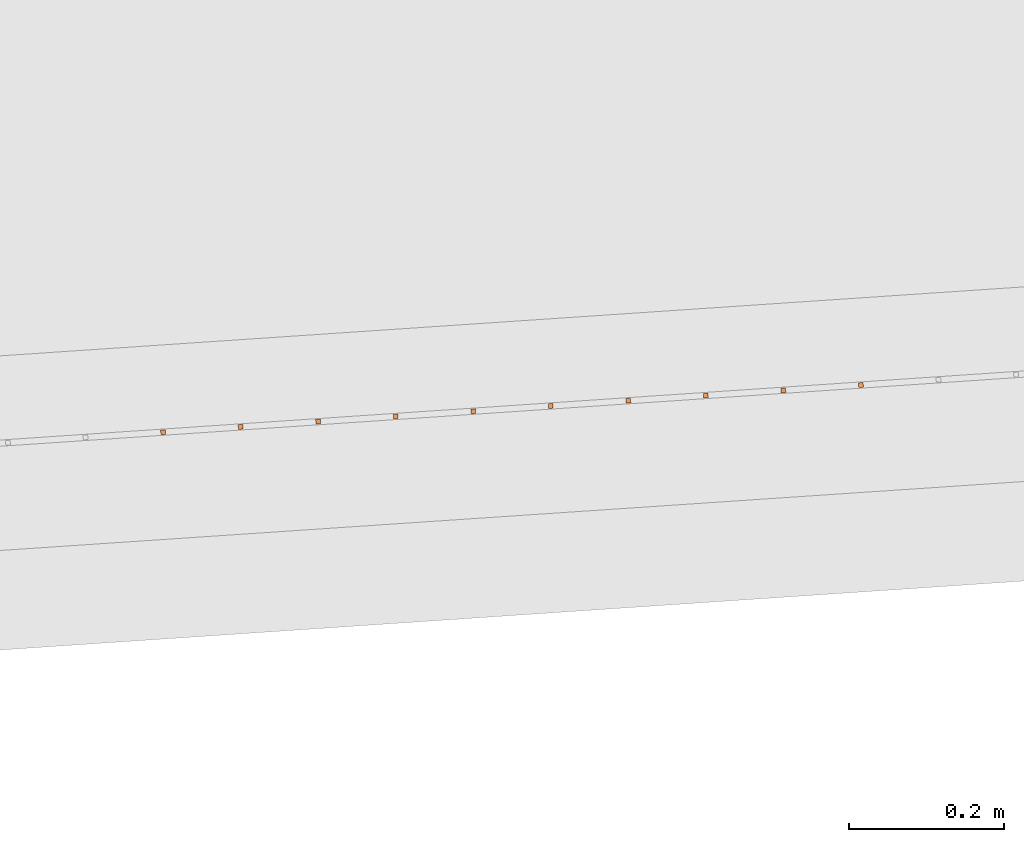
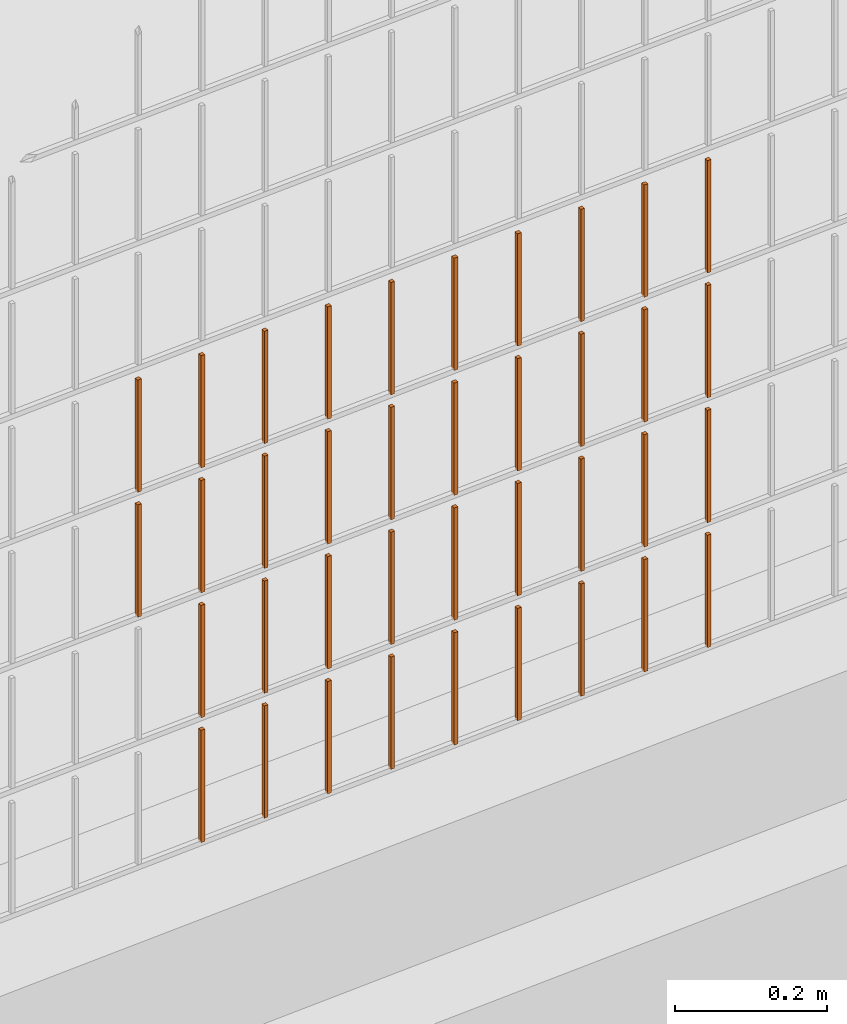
# One storey, part 175 of 1809: 38 proxies, 1 element without a shape of its own.
"""IFC2X3 building model written with IfcOpenShell, lengths in millimetres."""

import ifcopenshell
import ifcopenshell.guid

model = None  # the IFC model being written
_history = None  # IfcOwnerHistory: only IFC2X3 demands one
_inside = {}  # id of a spatial element -> (the spatial element, [elements in it])
_under = {}  # id of a project, library or spatial element -> (it, [spatial elements below it])
_declared = {}  # id of a project -> (the project, [libraries it declares])
_typed = {}  # id of a type object -> (the type object, [elements of that type])
_made_of = {}  # id of a material, layer set ... -> (it, [elements and type objects made of it])


def new_model(schema):
    """Start an empty IFC model of exactly this schema.

    Asked for "IFC4X3", IfcOpenShell would pick the latest addendum, in which some entities
    have other attributes; the version numbers below select the first issue.
    IFC2X3 requires an IfcOwnerHistory on every rooted entity: one is made here for all.
    """
    global model, _history
    if schema == "IFC4X3":
        model = ifcopenshell.file(schema_version=(4, 3, 0, 0))
    else:
        model = ifcopenshell.file(schema=schema)
    _inside.clear()
    _under.clear()
    _declared.clear()
    _typed.clear()
    _made_of.clear()
    _history = None
    if model.schema == "IFC2X3":
        org = make("IfcOrganization", Name="unknown")
        user = make(
            "IfcPersonAndOrganization",
            ThePerson=make("IfcPerson", FamilyName="unknown"),
            TheOrganization=org,
        )
        app = make(
            "IfcApplication",
            ApplicationDeveloper=org,
            Version="unknown",
            ApplicationFullName="unknown",
            ApplicationIdentifier="unknown",
        )
        _history = make(
            "IfcOwnerHistory",
            OwningUser=user,
            OwningApplication=app,
            ChangeAction="ADDED",
            CreationDate=0,
        )
    return model


def make(cls, **values):
    """One entity of the class cls with the attributes given. An attribute that is None is left unset."""
    return model.create_entity(
        cls, **{name: value for name, value in values.items() if value is not None}
    )


def entity(cls, *values):
    """Any entity or typed value of the class cls, its attributes in the order of the schema. None: left unset."""
    e = model.create_entity(cls)
    for i, value in enumerate(values):
        if value is not None:
            e[i] = value
    return e


def rooted(cls, **values):
    """An entity with a GlobalId (a new one), such as an element, a storey or a relation."""
    return make(cls, GlobalId=ifcopenshell.guid.new(), OwnerHistory=_history, **values)


def si_unit(unit_type, name, prefix=None):
    """IfcSIUnit, for example si_unit("LENGTHUNIT", "METRE", prefix="MILLI")."""
    return make("IfcSIUnit", UnitType=unit_type, Prefix=prefix, Name=name)


def converted_unit(unit_type, name, factor, base, dimensions=None, offset=None):
    """IfcConversionBasedUnit, such as the inch: factor (a typed value) times the base unit."""
    return make(
        "IfcConversionBasedUnit"
        if offset is None
        else "IfcConversionBasedUnitWithOffset",
        ConversionOffset=offset,
        Dimensions=None
        if dimensions is None
        else entity("IfcDimensionalExponents", *dimensions),
        UnitType=unit_type,
        Name=name,
        ConversionFactor=make(
            "IfcMeasureWithUnit", ValueComponent=factor, UnitComponent=base
        ),
    )


def derived_unit(unit_type, elements):
    """IfcDerivedUnit: a product of units, each with its exponent."""
    return make(
        "IfcDerivedUnit",
        Elements=[
            make("IfcDerivedUnitElement", Unit=unit, Exponent=power)
            for unit, power in elements
        ],
        UnitType=unit_type,
    )


def money_unit(currency):
    """IfcMonetaryUnit."""
    return make("IfcMonetaryUnit", Currency=currency)


def assignment(units):
    """IfcUnitAssignment: the units of a project."""
    return None if units is None else make("IfcUnitAssignment", Units=units)


def point(xyz):
    """IfcCartesianPoint."""
    return None if xyz is None else make("IfcCartesianPoint", Coordinates=xyz)


def direction(xyz):
    """IfcDirection."""
    return None if xyz is None else make("IfcDirection", DirectionRatios=xyz)


def frame(location, z_axis=None, x_axis=None):
    """IfcAxis2Placement3D, a coordinate frame: its origin and axes. An axis left out is left unset."""
    return make(
        "IfcAxis2Placement3D",
        Location=point(location),
        Axis=direction(z_axis),
        RefDirection=direction(x_axis),
    )


def origin_with_axes():
    """The frame at (0, 0, 0) with the z axis (0, 0, 1) and the x axis (1, 0, 0) written out."""
    return frame((0.0, 0.0, 0.0), z_axis=(0.0, 0.0, 1.0), x_axis=(1.0, 0.0, 0.0))


def place(relative_to, where):
    """IfcLocalPlacement: puts the frame where relative to a parent placement (None: the world)."""
    return make(
        "IfcLocalPlacement", PlacementRelTo=relative_to, RelativePlacement=where
    )


def context(
    kind, dimensions, precision=None, world=None, true_north=None, identifier=None
):
    """IfcGeometricRepresentationContext, for example the 3D "Model" context."""
    return make(
        "IfcGeometricRepresentationContext",
        ContextIdentifier=identifier,
        ContextType=kind,
        CoordinateSpaceDimension=dimensions,
        Precision=precision,
        WorldCoordinateSystem=world,
        TrueNorth=true_north,
    )


def subcontext(parent, identifier, kind, view, scale=None):
    """IfcGeometricRepresentationSubContext, for example "Body" below "Model"."""
    return make(
        "IfcGeometricRepresentationSubContext",
        ContextIdentifier=identifier,
        ContextType=kind,
        ParentContext=parent,
        TargetScale=scale,
        TargetView=view,
    )


def project(units=None, contexts=None):
    """IfcProject with its units and contexts."""
    return rooted(
        "IfcProject",
        Name="project",
        RepresentationContexts=contexts,
        UnitsInContext=assignment(units),
    )


def spatial(cls, under=None, at=None, **own):
    """A site, building, storey or space (cls), placed at a placement, below another one or the project."""
    s = rooted(cls, ObjectPlacement=at, **own)
    if under is not None:
        _under.setdefault(under.id(), (under, []))[1].append(s)
    return s


def faces_of(points, faces, orient=None, outer=None):
    """IfcFace entities. A face is a list of loops; a loop is a list of indices into points, from 0.

    orient and outer hold one flag for each loop. By default every Orientation is true, the
    first loop of a face is its IfcFaceOuterBound and the others are IfcFaceBound.
    """
    made = []
    for i, loops in enumerate(faces):
        bounds = []
        for j, loop in enumerate(loops):
            is_outer = j == 0 if outer is None else outer[i][j]
            bounds.append(
                make(
                    "IfcFaceOuterBound" if is_outer else "IfcFaceBound",
                    Bound=make("IfcPolyLoop", Polygon=[points[k] for k in loop]),
                    Orientation=True if orient is None else orient[i][j],
                )
            )
        made.append(make("IfcFace", Bounds=bounds))
    return made


def faceted_brep(points, faces, orient=None, outer=None, voids=None):
    """IfcFacetedBrep: a solid bounded by flat faces; with voids (closed shells), ...WithVoids."""
    shared = [point(p) for p in points]
    hull = make("IfcClosedShell", CfsFaces=faces_of(shared, faces, orient, outer))
    if voids is None:
        return make("IfcFacetedBrep", Outer=hull)
    return make(
        "IfcFacetedBrepWithVoids",
        Outer=hull,
        Voids=[
            make(cls, CfsFaces=faces_of(shared, fs, o, b)) for cls, fs, o, b in voids
        ],
    )


def shape(context_of_items, identifier, shape_type, items):
    """IfcShapeRepresentation: the items that make up one representation, for example the "Body"."""
    return make(
        "IfcShapeRepresentation",
        ContextOfItems=context_of_items,
        RepresentationIdentifier=identifier,
        RepresentationType=shape_type,
        Items=items,
    )


def source(mapping_origin, context_of_items, identifier, shape_type, items):
    """IfcRepresentationMap: a shape defined once, which mapped items show again and again."""
    return make(
        "IfcRepresentationMap",
        MappingOrigin=mapping_origin,
        MappedRepresentation=shape(context_of_items, identifier, shape_type, items),
    )


def transform(
    local_origin,
    x_axis=None,
    y_axis=None,
    z_axis=None,
    scale=None,
    scale2=None,
    scale3=None,
    uniform=True,
):
    """IfcCartesianTransformationOperator3D, or its non-uniform kind. x_axis, y_axis, z_axis: its Axis1, 2, 3."""
    if uniform:
        return make(
            "IfcCartesianTransformationOperator3D",
            Axis1=direction(x_axis),
            Axis2=direction(y_axis),
            LocalOrigin=point(local_origin),
            Scale=scale,
            Axis3=direction(z_axis),
        )
    return make(
        "IfcCartesianTransformationOperator3DnonUniform",
        Axis1=direction(x_axis),
        Axis2=direction(y_axis),
        LocalOrigin=point(local_origin),
        Scale=scale,
        Axis3=direction(z_axis),
        Scale2=scale2,
        Scale3=scale3,
    )


def mapped(mapping_source, mapping_target):
    """IfcMappedItem: shows the shape of a source again, moved by a transform."""
    return make(
        "IfcMappedItem", MappingSource=mapping_source, MappingTarget=mapping_target
    )


def material(Name=None, Category=None):
    """IfcMaterial."""
    return make("IfcMaterial", Name=Name, Category=Category)


def made_of(thing, what):
    """Note that an element or type object is made of a material, layer set ...; save() writes the relation."""
    if what is not None:
        _made_of.setdefault(what.id(), (what, []))[1].append(thing)
    return thing


def type_object(cls, material=None, **own):
    """A type object (cls), such as IfcWallType, which elements share."""
    return made_of(rooted(cls, **own), material)


def element(
    cls,
    number,
    at=None,
    inside=None,
    cuts=None,
    type_object=None,
    material=None,
    context=None,
    identifier="Body",
    shape_type=None,
    held_by="IfcProductDefinitionShape",
    body=None,
    shapes=None,
    **own,
):
    """One element of the class cls, such as IfcWall. Its Tag is "e" and its number.

    at: its placement. inside: the storey or other place that contains it. cuts: it is an
    opening in that element (IfcRelVoidsElement). A single representation is given by context,
    identifier, shape_type and body (its items); several are given by shapes. held_by: the class
    of the entity that holds the representations. save() writes the other relations.
    """
    e = rooted(cls, Tag="e%d" % number, ObjectPlacement=at, **own)
    if body is not None:
        shapes = [shape(context, identifier, shape_type, body)]
    if shapes is not None:
        e.Representation = make(held_by, Representations=shapes)
    if inside is not None:
        _inside.setdefault(inside.id(), (inside, []))[1].append(e)
    if cuts is not None:
        rooted(
            "IfcRelVoidsElement", RelatingBuildingElement=cuts, RelatedOpeningElement=e
        )
    if type_object is not None:
        _typed.setdefault(type_object.id(), (type_object, []))[1].append(e)
    return made_of(e, material)


def aggregate(whole, parts):
    """IfcRelAggregates: a whole, such as a stair, and the parts it consists of."""
    return rooted("IfcRelAggregates", RelatingObject=whole, RelatedObjects=parts)


def save(model, path):
    """Write the relations noted so far, then the file.

    IfcRelAggregates (storeys below a building ...), IfcRelContainedInSpatialStructure (elements
    in a storey), IfcRelDefinesByType, IfcRelAssociatesMaterial and IfcRelDeclares: one each for
    every whole, place, type object, material and project.
    """
    for whole, parts in _under.values():
        aggregate(whole, parts)
    for where, things in _inside.values():
        rooted(
            "IfcRelContainedInSpatialStructure",
            RelatedElements=things,
            RelatingStructure=where,
        )
    for kind, things in _typed.values():
        rooted("IfcRelDefinesByType", RelatedObjects=things, RelatingType=kind)
    for what, things in _made_of.values():
        rooted("IfcRelAssociatesMaterial", RelatedObjects=things, RelatingMaterial=what)
    for by, libraries in _declared.values():
        rooted("IfcRelDeclares", RelatingContext=by, RelatedDefinitions=libraries)
    model.write(path)


model = new_model("IFC2X3")

# Units and contexts
model_context = context("Model", 3, precision=0.01, world=origin_with_axes(), true_north=direction((0.0, 1.0)))
body_context = subcontext(model_context, "Body", "Model", "MODEL_VIEW")
ifc_project = project(units=[si_unit("LENGTHUNIT", "METRE", prefix="MILLI"), si_unit("AREAUNIT", "SQUARE_METRE"), si_unit("VOLUMEUNIT", "CUBIC_METRE"), converted_unit("PLANEANGLEUNIT", "DEGREE", entity("IfcPlaneAngleMeasure", 0.0174532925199), si_unit("PLANEANGLEUNIT", "RADIAN"), dimensions=[0, 0, 0, 0, 0, 0, 0]), si_unit("SOLIDANGLEUNIT", "STERADIAN"), money_unit("EUR"), converted_unit("TIMEUNIT", "Year", entity("IfcTimeMeasure", 31556926.0), si_unit("TIMEUNIT", "SECOND"), dimensions=[0, 0, 1, 0, 0, 0, 0]), si_unit("MASSUNIT", "GRAM", prefix="KILO"), si_unit("THERMODYNAMICTEMPERATUREUNIT", "DEGREE_CELSIUS"), si_unit("LUMINOUSINTENSITYUNIT", "LUMEN"), si_unit("ENERGYUNIT", "JOULE", prefix="MEGA"), derived_unit("THERMALCONDUCTANCEUNIT", [(si_unit("POWERUNIT", "WATT"), 1), (si_unit("LENGTHUNIT", "METRE"), -1), (si_unit("THERMODYNAMICTEMPERATUREUNIT", "KELVIN"), -1)]), derived_unit("SPECIFICHEATCAPACITYUNIT", [(si_unit("ENERGYUNIT", "JOULE"), 1), (si_unit("MASSUNIT", "GRAM", prefix="KILO"), -1), (si_unit("THERMODYNAMICTEMPERATUREUNIT", "KELVIN"), -1)]), derived_unit("MASSDENSITYUNIT", [(si_unit("MASSUNIT", "GRAM", prefix="KILO"), 1), (si_unit("VOLUMEUNIT", "CUBIC_METRE"), -1)])], contexts=[model_context])

# Site, building, storey
site_placement = place(None, origin_with_axes())
site = spatial("IfcSite", under=ifc_project, at=site_placement, Name="Politse- ja Piirivalveameti ning Päästeameti ühishoone", CompositionType="ELEMENT")
building_placement = place(site_placement, origin_with_axes())
building = spatial("IfcBuilding", under=site, at=building_placement, Name="Politse- ja Piirivalveameti ning Päästeameti ühishoone", CompositionType="ELEMENT")
storey_placement = place(building_placement, origin_with_axes())
storey = spatial("IfcBuildingStorey", under=building, at=storey_placement, Name="Esimene korrus", CompositionType="ELEMENT", Elevation=0.0)

# Proxies
building_element_proxy_type_1 = type_object("IfcBuildingElementProxyType", Name="Railing Type", PredefinedType="NOTDEFINED")
proxy_1_placement = place(storey_placement, frame((89252.001212, -29183.4766571, 203.661247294), z_axis=(0.0, 0.0, 1.0), x_axis=(1.0, 0.0, 0.0)))
proxy_1 = element("IfcBuildingElementProxy", 1, at=proxy_1_placement, inside=storey, type_object=building_element_proxy_type_1, Name="PIIRDEAED")
ifc_material = material(Name="ET-03_Raud")
building_element_proxy_type_2 = type_object("IfcBuildingElementProxyType", Name="IfcBuildingElementProxy", PredefinedType="NOTDEFINED")
shared_shape_1 = source(origin_with_axes(), body_context, "Body", "Brep", [
    faceted_brep([(3.0, 3.0, -0.000752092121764), (-3.0, 3.0, -0.000752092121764), (-3.0, 3.0, 179.99926046), (3.0, 3.0, 179.99926046), (3.0, -3.0, 0.000752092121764), (-3.0, -3.0, 0.000752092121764), (-3.0, -3.0, 180.000764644), (3.0, -3.0, 180.000764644)], [[[0, 1, 2, 3]], [[0, 4, 5, 1]], [[1, 5, 6, 2]], [[3, 2, 6, 7]], [[4, 0, 3, 7]], [[5, 4, 7, 6]]]),
])
proxy_2_placement = place(proxy_1_placement, frame((-73359.5272673, -22252.9339796, 608.801437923), z_axis=(0.0, 0.0, 1.0), x_axis=(1.0, 0.0, 0.0)))
proxy_2 = element("IfcBuildingElementProxy", 2, at=proxy_2_placement, type_object=building_element_proxy_type_2, material=ifc_material, Name="BALUSTER - 001", context=body_context, shape_type="MappedRepresentation", body=[
    mapped(shared_shape_1, transform((0.0, 0.0, 0.0), x_axis=(-0.0673926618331, 0.997726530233, 0.0), y_axis=(-0.997726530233, -0.0673926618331, 0.0), z_axis=(0.0, 0.0, 1.0))),
])
shared_shape_2 = source(origin_with_axes(), body_context, "Body", "Brep", [
    faceted_brep([(3.0, 3.0, -0.000752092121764), (-3.0, 3.0, -0.000752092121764), (-3.0, 3.0, 179.99926046), (3.0, 3.0, 179.99926046), (3.0, -3.0, 0.000752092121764), (-3.0, -3.0, 0.000752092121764), (-3.0, -3.0, 180.000764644), (3.0, -3.0, 180.000764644)], [[[0, 1, 2, 3]], [[0, 4, 5, 1]], [[1, 5, 6, 2]], [[3, 2, 6, 7]], [[4, 0, 3, 7]], [[5, 4, 7, 6]]]),
])
proxy_3_placement = place(proxy_1_placement, frame((-73359.5272673, -22252.9339796, 408.801437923), z_axis=(0.0, 0.0, 1.0), x_axis=(1.0, 0.0, 0.0)))
proxy_3 = element("IfcBuildingElementProxy", 3, at=proxy_3_placement, type_object=building_element_proxy_type_2, material=ifc_material, Name="BALUSTER - 001", context=body_context, shape_type="MappedRepresentation", body=[
    mapped(shared_shape_2, transform((0.0, 0.0, 0.0), x_axis=(-0.0673926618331, 0.997726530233, 0.0), y_axis=(-0.997726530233, -0.0673926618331, 0.0), z_axis=(0.0, 0.0, 1.0))),
])
shared_shape_3 = source(origin_with_axes(), body_context, "Body", "Brep", [
    faceted_brep([(3.0, 3.0, -0.000752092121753), (-3.0, 3.0, -0.000752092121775), (-3.0, 3.0, 179.99926046), (3.0, 3.0, 179.99926046), (3.0, -3.0, 0.000752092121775), (-3.0, -3.0, 0.000752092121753), (-3.0, -3.0, 180.000764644), (3.0, -3.0, 180.000764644)], [[[0, 1, 2, 3]], [[0, 4, 5, 1]], [[1, 5, 6, 2]], [[3, 2, 6, 7]], [[4, 0, 3, 7]], [[5, 4, 7, 6]]]),
])
proxy_4_placement = place(proxy_1_placement, frame((-73259.7546143, -22246.1947135, 8.82650766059), z_axis=(0.0, 0.0, 1.0), x_axis=(1.0, 0.0, 0.0)))
proxy_4 = element("IfcBuildingElementProxy", 4, at=proxy_4_placement, type_object=building_element_proxy_type_2, material=ifc_material, Name="BALUSTER - 001", context=body_context, shape_type="MappedRepresentation", body=[
    mapped(shared_shape_3, transform((0.0, 0.0, 0.0), x_axis=(-0.0673926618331, 0.997726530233, 0.0), y_axis=(-0.997726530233, -0.0673926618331, 0.0), z_axis=(0.0, 0.0, 1.0))),
])
proxy_5_placement = place(proxy_1_placement, frame((-73858.3905324, -22286.6303106, 8.67608923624), z_axis=(0.0, 0.0, 1.0), x_axis=(1.0, 0.0, 0.0)))
proxy_5 = element("IfcBuildingElementProxy", 5, at=proxy_5_placement, type_object=building_element_proxy_type_2, material=ifc_material, Name="BALUSTER - 001", context=body_context, shape_type="MappedRepresentation", body=[
    mapped(shared_shape_3, transform((0.0, 0.0, 0.0), x_axis=(-0.0673926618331, 0.997726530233, 0.0), y_axis=(-0.997726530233, -0.0673926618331, 0.0), z_axis=(0.0, 0.0, 1.0))),
])
proxy_6_placement = place(proxy_1_placement, frame((-73958.1631855, -22293.3695767, 8.65101949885), z_axis=(0.0, 0.0, 1.0), x_axis=(1.0, 0.0, 0.0)))
proxy_6 = element("IfcBuildingElementProxy", 6, at=proxy_6_placement, type_object=building_element_proxy_type_2, material=ifc_material, Name="BALUSTER - 001", context=body_context, shape_type="MappedRepresentation", body=[
    mapped(shared_shape_3, transform((0.0, 0.0, 0.0), x_axis=(-0.0673926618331, 0.997726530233, 0.0), y_axis=(-0.997726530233, -0.0673926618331, 0.0), z_axis=(0.0, 0.0, 1.0))),
])
proxy_7_placement = place(proxy_1_placement, frame((-73259.7546143, -22246.1947135, 208.826507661), z_axis=(0.0, 0.0, 1.0), x_axis=(1.0, 0.0, 0.0)))
proxy_7 = element("IfcBuildingElementProxy", 7, at=proxy_7_placement, type_object=building_element_proxy_type_2, material=ifc_material, Name="BALUSTER - 001", context=body_context, shape_type="MappedRepresentation", body=[
    mapped(shared_shape_3, transform((0.0, 0.0, 0.0), x_axis=(-0.0673926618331, 0.997726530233, 0.0), y_axis=(-0.997726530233, -0.0673926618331, 0.0), z_axis=(0.0, 0.0, 1.0))),
])
proxy_8_placement = place(proxy_1_placement, frame((-73858.3905324, -22286.6303106, 208.676089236), z_axis=(0.0, 0.0, 1.0), x_axis=(1.0, 0.0, 0.0)))
proxy_8 = element("IfcBuildingElementProxy", 8, at=proxy_8_placement, type_object=building_element_proxy_type_2, material=ifc_material, Name="BALUSTER - 001", context=body_context, shape_type="MappedRepresentation", body=[
    mapped(shared_shape_3, transform((0.0, 0.0, 0.0), x_axis=(-0.0673926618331, 0.997726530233, 0.0), y_axis=(-0.997726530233, -0.0673926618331, 0.0), z_axis=(0.0, 0.0, 1.0))),
])
proxy_9_placement = place(proxy_1_placement, frame((-73958.1631855, -22293.3695767, 208.651019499), z_axis=(0.0, 0.0, 1.0), x_axis=(1.0, 0.0, 0.0)))
proxy_9 = element("IfcBuildingElementProxy", 9, at=proxy_9_placement, type_object=building_element_proxy_type_2, material=ifc_material, Name="BALUSTER - 001", context=body_context, shape_type="MappedRepresentation", body=[
    mapped(shared_shape_3, transform((0.0, 0.0, 0.0), x_axis=(-0.0673926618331, 0.997726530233, 0.0), y_axis=(-0.997726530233, -0.0673926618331, 0.0), z_axis=(0.0, 0.0, 1.0))),
])
shared_shape_4 = source(origin_with_axes(), body_context, "Body", "Brep", [
    faceted_brep([(3.0, 3.0, -0.000752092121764), (-3.0, 3.0, -0.000752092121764), (-3.0, 3.0, 179.99926046), (3.0, 3.0, 179.99926046), (3.0, -3.0, 0.000752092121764), (-3.0, -3.0, 0.000752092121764), (-3.0, -3.0, 180.000764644), (3.0, -3.0, 180.000764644)], [[[0, 1, 2, 3]], [[0, 4, 5, 1]], [[1, 5, 6, 2]], [[3, 2, 6, 7]], [[4, 0, 3, 7]], [[5, 4, 7, 6]]]),
])
proxy_10_placement = place(proxy_1_placement, frame((-73459.2999203, -22259.6732458, 8.77636818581), z_axis=(0.0, 0.0, 1.0), x_axis=(1.0, 0.0, 0.0)))
proxy_10 = element("IfcBuildingElementProxy", 10, at=proxy_10_placement, type_object=building_element_proxy_type_2, material=ifc_material, Name="BALUSTER - 001", context=body_context, shape_type="MappedRepresentation", body=[
    mapped(shared_shape_4, transform((0.0, 0.0, 0.0), x_axis=(-0.0673926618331, 0.997726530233, 0.0), y_axis=(-0.997726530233, -0.0673926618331, 0.0), z_axis=(0.0, 0.0, 1.0))),
])
proxy_11_placement = place(proxy_1_placement, frame((-74057.9358385, -22300.1088429, 8.62594976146), z_axis=(0.0, 0.0, 1.0), x_axis=(1.0, 0.0, 0.0)))
proxy_11 = element("IfcBuildingElementProxy", 11, at=proxy_11_placement, type_object=building_element_proxy_type_2, material=ifc_material, Name="BALUSTER - 001", context=body_context, shape_type="MappedRepresentation", body=[
    mapped(shared_shape_4, transform((0.0, 0.0, 0.0), x_axis=(-0.0673926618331, 0.997726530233, 0.0), y_axis=(-0.997726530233, -0.0673926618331, 0.0), z_axis=(0.0, 0.0, 1.0))),
])
shared_shape_5 = source(origin_with_axes(), body_context, "Body", "Brep", [
    faceted_brep([(3.0, 3.0, -0.000752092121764), (-3.0, 3.0, -0.000752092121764), (-3.0, 3.0, 179.99926046), (3.0, 3.0, 179.99926046), (3.0, -3.0, 0.000752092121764), (-3.0, -3.0, 0.000752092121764), (-3.0, -3.0, 180.000764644), (3.0, -3.0, 180.000764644)], [[[0, 1, 2, 3]], [[0, 4, 5, 1]], [[1, 5, 6, 2]], [[3, 2, 6, 7]], [[4, 0, 3, 7]], [[5, 4, 7, 6]]]),
])
proxy_12_placement = place(proxy_1_placement, frame((-74057.9358385, -22300.1088429, 208.625949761), z_axis=(0.0, 0.0, 1.0), x_axis=(1.0, 0.0, 0.0)))
proxy_12 = element("IfcBuildingElementProxy", 12, at=proxy_12_placement, type_object=building_element_proxy_type_2, material=ifc_material, Name="BALUSTER - 001", context=body_context, shape_type="MappedRepresentation", body=[
    mapped(shared_shape_5, transform((0.0, 0.0, 0.0), x_axis=(-0.0673926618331, 0.997726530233, 0.0), y_axis=(-0.997726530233, -0.0673926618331, 0.0), z_axis=(0.0, 0.0, 1.0))),
])
proxy_13_placement = place(proxy_1_placement, frame((-73459.2999203, -22259.6732458, 408.776368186), z_axis=(0.0, 0.0, 1.0), x_axis=(1.0, 0.0, 0.0)))
proxy_13 = element("IfcBuildingElementProxy", 13, at=proxy_13_placement, type_object=building_element_proxy_type_2, material=ifc_material, Name="BALUSTER - 001", context=body_context, shape_type="MappedRepresentation", body=[
    mapped(shared_shape_5, transform((0.0, 0.0, 0.0), x_axis=(-0.0673926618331, 0.997726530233, 0.0), y_axis=(-0.997726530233, -0.0673926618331, 0.0), z_axis=(0.0, 0.0, 1.0))),
])
proxy_14_placement = place(proxy_1_placement, frame((-74057.9358385, -22300.1088429, 408.625949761), z_axis=(0.0, 0.0, 1.0), x_axis=(1.0, 0.0, 0.0)))
proxy_14 = element("IfcBuildingElementProxy", 14, at=proxy_14_placement, type_object=building_element_proxy_type_2, material=ifc_material, Name="BALUSTER - 001", context=body_context, shape_type="MappedRepresentation", body=[
    mapped(shared_shape_5, transform((0.0, 0.0, 0.0), x_axis=(-0.0673926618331, 0.997726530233, 0.0), y_axis=(-0.997726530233, -0.0673926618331, 0.0), z_axis=(0.0, 0.0, 1.0))),
])
proxy_15_placement = place(proxy_1_placement, frame((-73459.2999203, -22259.6732458, 608.776368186), z_axis=(0.0, 0.0, 1.0), x_axis=(1.0, 0.0, 0.0)))
proxy_15 = element("IfcBuildingElementProxy", 15, at=proxy_15_placement, type_object=building_element_proxy_type_2, material=ifc_material, Name="BALUSTER - 001", context=body_context, shape_type="MappedRepresentation", body=[
    mapped(shared_shape_5, transform((0.0, 0.0, 0.0), x_axis=(-0.0673926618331, 0.997726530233, 0.0), y_axis=(-0.997726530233, -0.0673926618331, 0.0), z_axis=(0.0, 0.0, 1.0))),
])
shared_shape_6 = source(origin_with_axes(), body_context, "Body", "Brep", [
    faceted_brep([(3.0, 3.0, -0.000752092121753), (-3.0, 3.0, -0.000752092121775), (-3.0, 3.0, 179.99926046), (3.0, 3.0, 179.99926046), (3.0, -3.0, 0.000752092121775), (-3.0, -3.0, 0.000752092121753), (-3.0, -3.0, 180.000764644), (3.0, -3.0, 180.000764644)], [[[0, 1, 2, 3]], [[0, 4, 5, 1]], [[1, 5, 6, 2]], [[3, 2, 6, 7]], [[4, 0, 3, 7]], [[5, 4, 7, 6]]]),
])
proxy_16_placement = place(proxy_1_placement, frame((-73559.0725734, -22266.412512, 8.75129844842), z_axis=(0.0, 0.0, 1.0), x_axis=(1.0, 0.0, 0.0)))
proxy_16 = element("IfcBuildingElementProxy", 16, at=proxy_16_placement, type_object=building_element_proxy_type_2, material=ifc_material, Name="BALUSTER - 001", context=body_context, shape_type="MappedRepresentation", body=[
    mapped(shared_shape_6, transform((0.0, 0.0, 0.0), x_axis=(-0.0673926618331, 0.997726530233, 0.0), y_axis=(-0.997726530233, -0.0673926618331, 0.0), z_axis=(0.0, 0.0, 1.0))),
])
shared_shape_7 = source(origin_with_axes(), body_context, "Body", "Brep", [
    faceted_brep([(3.0, 3.0, -0.000752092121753), (-3.0, 3.0, -0.000752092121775), (-3.0, 3.0, 179.99926046), (3.0, 3.0, 179.99926046), (3.0, -3.0, 0.000752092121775), (-3.0, -3.0, 0.000752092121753), (-3.0, -3.0, 180.000764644), (3.0, -3.0, 180.000764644)], [[[0, 1, 2, 3]], [[0, 4, 5, 1]], [[1, 5, 6, 2]], [[3, 2, 6, 7]], [[4, 0, 3, 7]], [[5, 4, 7, 6]]]),
])
proxy_17_placement = place(proxy_1_placement, frame((-73259.7546143, -22246.1947135, 408.826507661), z_axis=(0.0, 0.0, 1.0), x_axis=(1.0, 0.0, 0.0)))
proxy_17 = element("IfcBuildingElementProxy", 17, at=proxy_17_placement, type_object=building_element_proxy_type_2, material=ifc_material, Name="BALUSTER - 001", context=body_context, shape_type="MappedRepresentation", body=[
    mapped(shared_shape_7, transform((0.0, 0.0, 0.0), x_axis=(-0.0673926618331, 0.997726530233, 0.0), y_axis=(-0.997726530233, -0.0673926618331, 0.0), z_axis=(0.0, 0.0, 1.0))),
])
proxy_18_placement = place(proxy_1_placement, frame((-73658.8452264, -22273.1517782, 408.726228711), z_axis=(0.0, 0.0, 1.0), x_axis=(1.0, 0.0, 0.0)))
proxy_18 = element("IfcBuildingElementProxy", 18, at=proxy_18_placement, type_object=building_element_proxy_type_2, material=ifc_material, Name="BALUSTER - 001", context=body_context, shape_type="MappedRepresentation", body=[
    mapped(shared_shape_7, transform((0.0, 0.0, 0.0), x_axis=(-0.0673926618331, 0.997726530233, 0.0), y_axis=(-0.997726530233, -0.0673926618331, 0.0), z_axis=(0.0, 0.0, 1.0))),
])
proxy_19_placement = place(proxy_1_placement, frame((-73958.1631855, -22293.3695767, 408.651019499), z_axis=(0.0, 0.0, 1.0), x_axis=(1.0, 0.0, 0.0)))
proxy_19 = element("IfcBuildingElementProxy", 19, at=proxy_19_placement, type_object=building_element_proxy_type_2, material=ifc_material, Name="BALUSTER - 001", context=body_context, shape_type="MappedRepresentation", body=[
    mapped(shared_shape_7, transform((0.0, 0.0, 0.0), x_axis=(-0.0673926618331, 0.997726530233, 0.0), y_axis=(-0.997726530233, -0.0673926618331, 0.0), z_axis=(0.0, 0.0, 1.0))),
])
shared_shape_8 = source(origin_with_axes(), body_context, "Body", "Brep", [
    faceted_brep([(3.0, 3.0, -0.000752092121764), (-3.0, 3.0, -0.000752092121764), (-3.0, 3.0, 179.99926046), (3.0, 3.0, 179.99926046), (3.0, -3.0, 0.000752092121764), (-3.0, -3.0, 0.000752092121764), (-3.0, -3.0, 180.000764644), (3.0, -3.0, 180.000764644)], [[[0, 1, 2, 3]], [[0, 4, 5, 1]], [[1, 5, 6, 2]], [[3, 2, 6, 7]], [[4, 0, 3, 7]], [[5, 4, 7, 6]]]),
])
proxy_20_placement = place(proxy_1_placement, frame((-73459.2999203, -22259.6732458, 208.776368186), z_axis=(0.0, 0.0, 1.0), x_axis=(1.0, 0.0, 0.0)))
proxy_20 = element("IfcBuildingElementProxy", 20, at=proxy_20_placement, type_object=building_element_proxy_type_2, material=ifc_material, Name="BALUSTER - 001", context=body_context, shape_type="MappedRepresentation", body=[
    mapped(shared_shape_8, transform((0.0, 0.0, 0.0), x_axis=(-0.0673926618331, 0.997726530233, 0.0), y_axis=(-0.997726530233, -0.0673926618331, 0.0), z_axis=(0.0, 0.0, 1.0))),
])
shared_shape_9 = source(origin_with_axes(), body_context, "Body", "Brep", [
    faceted_brep([(3.0, 3.0, -0.000752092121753), (-3.0, 3.0, -0.000752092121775), (-3.0, 3.0, 179.99926046), (3.0, 3.0, 179.99926046), (3.0, -3.0, 0.000752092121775), (-3.0, -3.0, 0.000752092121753), (-3.0, -3.0, 180.000764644), (3.0, -3.0, 180.000764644)], [[[0, 1, 2, 3]], [[0, 4, 5, 1]], [[1, 5, 6, 2]], [[3, 2, 6, 7]], [[4, 0, 3, 7]], [[5, 4, 7, 6]]]),
])
proxy_21_placement = place(proxy_1_placement, frame((-73559.0725734, -22266.412512, 208.751298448), z_axis=(0.0, 0.0, 1.0), x_axis=(1.0, 0.0, 0.0)))
proxy_21 = element("IfcBuildingElementProxy", 21, at=proxy_21_placement, type_object=building_element_proxy_type_2, material=ifc_material, Name="BALUSTER - 001", context=body_context, shape_type="MappedRepresentation", body=[
    mapped(shared_shape_9, transform((0.0, 0.0, 0.0), x_axis=(-0.0673926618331, 0.997726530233, 0.0), y_axis=(-0.997726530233, -0.0673926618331, 0.0), z_axis=(0.0, 0.0, 1.0))),
])
proxy_22_placement = place(proxy_1_placement, frame((-73559.0725734, -22266.412512, 408.751298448), z_axis=(0.0, 0.0, 1.0), x_axis=(1.0, 0.0, 0.0)))
proxy_22 = element("IfcBuildingElementProxy", 22, at=proxy_22_placement, type_object=building_element_proxy_type_2, material=ifc_material, Name="BALUSTER - 001", context=body_context, shape_type="MappedRepresentation", body=[
    mapped(shared_shape_9, transform((0.0, 0.0, 0.0), x_axis=(-0.0673926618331, 0.997726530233, 0.0), y_axis=(-0.997726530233, -0.0673926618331, 0.0), z_axis=(0.0, 0.0, 1.0))),
])
proxy_23_placement = place(proxy_1_placement, frame((-73559.0725734, -22266.412512, 608.751298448), z_axis=(0.0, 0.0, 1.0), x_axis=(1.0, 0.0, 0.0)))
proxy_23 = element("IfcBuildingElementProxy", 23, at=proxy_23_placement, type_object=building_element_proxy_type_2, material=ifc_material, Name="BALUSTER - 001", context=body_context, shape_type="MappedRepresentation", body=[
    mapped(shared_shape_9, transform((0.0, 0.0, 0.0), x_axis=(-0.0673926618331, 0.997726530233, 0.0), y_axis=(-0.997726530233, -0.0673926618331, 0.0), z_axis=(0.0, 0.0, 1.0))),
])
shared_shape_10 = source(origin_with_axes(), body_context, "Body", "Brep", [
    faceted_brep([(3.0, 3.0, -0.000752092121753), (-3.0, 3.0, -0.000752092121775), (-3.0, 3.0, 179.99926046), (3.0, 3.0, 179.99926046), (3.0, -3.0, 0.000752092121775), (-3.0, -3.0, 0.000752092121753), (-3.0, -3.0, 180.000764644), (3.0, -3.0, 180.000764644)], [[[0, 1, 2, 3]], [[0, 4, 5, 1]], [[1, 5, 6, 2]], [[3, 2, 6, 7]], [[4, 0, 3, 7]], [[5, 4, 7, 6]]]),
])
proxy_24_placement = place(proxy_1_placement, frame((-73858.3905324, -22286.6303106, 608.676089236), z_axis=(0.0, 0.0, 1.0), x_axis=(1.0, 0.0, 0.0)))
proxy_24 = element("IfcBuildingElementProxy", 24, at=proxy_24_placement, type_object=building_element_proxy_type_2, material=ifc_material, Name="BALUSTER - 001", context=body_context, shape_type="MappedRepresentation", body=[
    mapped(shared_shape_10, transform((0.0, 0.0, 0.0), x_axis=(-0.0673926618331, 0.997726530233, 0.0), y_axis=(-0.997726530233, -0.0673926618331, 0.0), z_axis=(0.0, 0.0, 1.0))),
])
shared_shape_11 = source(origin_with_axes(), body_context, "Body", "Brep", [
    faceted_brep([(3.0, 3.0, -0.000752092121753), (-3.0, 3.0, -0.000752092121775), (-3.0, 3.0, 179.99926046), (3.0, 3.0, 179.99926046), (3.0, -3.0, 0.000752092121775), (-3.0, -3.0, 0.000752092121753), (-3.0, -3.0, 180.000764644), (3.0, -3.0, 180.000764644)], [[[0, 1, 2, 3]], [[0, 4, 5, 1]], [[1, 5, 6, 2]], [[3, 2, 6, 7]], [[4, 0, 3, 7]], [[5, 4, 7, 6]]]),
])
proxy_25_placement = place(proxy_1_placement, frame((-73858.3905324, -22286.6303106, 408.676089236), z_axis=(0.0, 0.0, 1.0), x_axis=(1.0, 0.0, 0.0)))
proxy_25 = element("IfcBuildingElementProxy", 25, at=proxy_25_placement, type_object=building_element_proxy_type_2, material=ifc_material, Name="BALUSTER - 001", context=body_context, shape_type="MappedRepresentation", body=[
    mapped(shared_shape_11, transform((0.0, 0.0, 0.0), x_axis=(-0.0673926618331, 0.997726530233, 0.0), y_axis=(-0.997726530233, -0.0673926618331, 0.0), z_axis=(0.0, 0.0, 1.0))),
])
shared_shape_12 = source(origin_with_axes(), body_context, "Body", "Brep", [
    faceted_brep([(3.0, 3.0, -0.000752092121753), (-3.0, 3.0, -0.000752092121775), (-3.0, 3.0, 179.99926046), (3.0, 3.0, 179.99926046), (3.0, -3.0, 0.000752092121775), (-3.0, -3.0, 0.000752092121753), (-3.0, -3.0, 180.000764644), (3.0, -3.0, 180.000764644)], [[[0, 1, 2, 3]], [[0, 4, 5, 1]], [[1, 5, 6, 2]], [[3, 2, 6, 7]], [[4, 0, 3, 7]], [[5, 4, 7, 6]]]),
])
proxy_26_placement = place(proxy_1_placement, frame((-73259.7546143, -22246.1947135, 608.826507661), z_axis=(0.0, 0.0, 1.0), x_axis=(1.0, 0.0, 0.0)))
proxy_26 = element("IfcBuildingElementProxy", 26, at=proxy_26_placement, type_object=building_element_proxy_type_2, material=ifc_material, Name="BALUSTER - 001", context=body_context, shape_type="MappedRepresentation", body=[
    mapped(shared_shape_12, transform((0.0, 0.0, 0.0), x_axis=(-0.0673926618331, 0.997726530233, 0.0), y_axis=(-0.997726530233, -0.0673926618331, 0.0), z_axis=(0.0, 0.0, 1.0))),
])
proxy_27_placement = place(proxy_1_placement, frame((-73958.1631855, -22293.3695767, 608.651019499), z_axis=(0.0, 0.0, 1.0), x_axis=(1.0, 0.0, 0.0)))
proxy_27 = element("IfcBuildingElementProxy", 27, at=proxy_27_placement, type_object=building_element_proxy_type_2, material=ifc_material, Name="BALUSTER - 001", context=body_context, shape_type="MappedRepresentation", body=[
    mapped(shared_shape_12, transform((0.0, 0.0, 0.0), x_axis=(-0.0673926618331, 0.997726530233, 0.0), y_axis=(-0.997726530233, -0.0673926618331, 0.0), z_axis=(0.0, 0.0, 1.0))),
])
shared_shape_13 = source(origin_with_axes(), body_context, "Body", "Brep", [
    faceted_brep([(3.0, 3.0, -0.000752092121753), (-3.0, 3.0, -0.000752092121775), (-3.0, 3.0, 179.99926046), (3.0, 3.0, 179.99926046), (3.0, -3.0, 0.000752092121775), (-3.0, -3.0, 0.000752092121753), (-3.0, -3.0, 180.000764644), (3.0, -3.0, 180.000764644)], [[[0, 1, 2, 3]], [[0, 4, 5, 1]], [[1, 5, 6, 2]], [[3, 2, 6, 7]], [[4, 0, 3, 7]], [[5, 4, 7, 6]]]),
])
proxy_28_placement = place(proxy_1_placement, frame((-73658.8452264, -22273.1517782, 8.72622871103), z_axis=(0.0, 0.0, 1.0), x_axis=(1.0, 0.0, 0.0)))
proxy_28 = element("IfcBuildingElementProxy", 28, at=proxy_28_placement, type_object=building_element_proxy_type_2, material=ifc_material, Name="BALUSTER - 001", context=body_context, shape_type="MappedRepresentation", body=[
    mapped(shared_shape_13, transform((0.0, 0.0, 0.0), x_axis=(-0.0673926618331, 0.997726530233, 0.0), y_axis=(-0.997726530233, -0.0673926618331, 0.0), z_axis=(0.0, 0.0, 1.0))),
])
shared_shape_14 = source(origin_with_axes(), body_context, "Body", "Brep", [
    faceted_brep([(3.0, 3.0, -0.000752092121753), (-3.0, 3.0, -0.000752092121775), (-3.0, 3.0, 179.99926046), (3.0, 3.0, 179.99926046), (3.0, -3.0, 0.000752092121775), (-3.0, -3.0, 0.000752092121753), (-3.0, -3.0, 180.000764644), (3.0, -3.0, 180.000764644)], [[[0, 1, 2, 3]], [[0, 4, 5, 1]], [[1, 5, 6, 2]], [[3, 2, 6, 7]], [[4, 0, 3, 7]], [[5, 4, 7, 6]]]),
])
proxy_29_placement = place(proxy_1_placement, frame((-73658.8452264, -22273.1517782, 208.726228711), z_axis=(0.0, 0.0, 1.0), x_axis=(1.0, 0.0, 0.0)))
proxy_29 = element("IfcBuildingElementProxy", 29, at=proxy_29_placement, type_object=building_element_proxy_type_2, material=ifc_material, Name="BALUSTER - 001", context=body_context, shape_type="MappedRepresentation", body=[
    mapped(shared_shape_14, transform((0.0, 0.0, 0.0), x_axis=(-0.0673926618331, 0.997726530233, 0.0), y_axis=(-0.997726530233, -0.0673926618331, 0.0), z_axis=(0.0, 0.0, 1.0))),
])
proxy_30_placement = place(proxy_1_placement, frame((-73658.8452264, -22273.1517782, 608.726228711), z_axis=(0.0, 0.0, 1.0), x_axis=(1.0, 0.0, 0.0)))
proxy_30 = element("IfcBuildingElementProxy", 30, at=proxy_30_placement, type_object=building_element_proxy_type_2, material=ifc_material, Name="BALUSTER - 001", context=body_context, shape_type="MappedRepresentation", body=[
    mapped(shared_shape_14, transform((0.0, 0.0, 0.0), x_axis=(-0.0673926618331, 0.997726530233, 0.0), y_axis=(-0.997726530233, -0.0673926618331, 0.0), z_axis=(0.0, 0.0, 1.0))),
])
shared_shape_15 = source(origin_with_axes(), body_context, "Body", "Brep", [
    faceted_brep([(3.0, 3.0, -0.000752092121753), (-3.0, 3.0, -0.000752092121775), (-3.0, 3.0, 179.99926046), (3.0, 3.0, 179.99926046), (3.0, -3.0, 0.000752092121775), (-3.0, -3.0, 0.000752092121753), (-3.0, -3.0, 180.000764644), (3.0, -3.0, 180.000764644)], [[[0, 1, 2, 3]], [[0, 4, 5, 1]], [[1, 5, 6, 2]], [[3, 2, 6, 7]], [[4, 0, 3, 7]], [[5, 4, 7, 6]]]),
])
proxy_31_placement = place(proxy_1_placement, frame((-73758.6178794, -22279.8910444, 608.701158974), z_axis=(0.0, 0.0, 1.0), x_axis=(1.0, 0.0, 0.0)))
proxy_31 = element("IfcBuildingElementProxy", 31, at=proxy_31_placement, type_object=building_element_proxy_type_2, material=ifc_material, Name="BALUSTER - 001", context=body_context, shape_type="MappedRepresentation", body=[
    mapped(shared_shape_15, transform((0.0, 0.0, 0.0), x_axis=(-0.0673926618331, 0.997726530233, 0.0), y_axis=(-0.997726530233, -0.0673926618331, 0.0), z_axis=(0.0, 0.0, 1.0))),
])
shared_shape_16 = source(origin_with_axes(), body_context, "Body", "Brep", [
    faceted_brep([(3.0, 3.0, -0.000752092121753), (-3.0, 3.0, -0.000752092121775), (-3.0, 3.0, 179.99926046), (3.0, 3.0, 179.99926046), (3.0, -3.0, 0.000752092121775), (-3.0, -3.0, 0.000752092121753), (-3.0, -3.0, 180.000764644), (3.0, -3.0, 180.000764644)], [[[0, 1, 2, 3]], [[0, 4, 5, 1]], [[1, 5, 6, 2]], [[3, 2, 6, 7]], [[4, 0, 3, 7]], [[5, 4, 7, 6]]]),
])
proxy_32_placement = place(proxy_1_placement, frame((-73758.6178794, -22279.8910444, 408.701158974), z_axis=(0.0, 0.0, 1.0), x_axis=(1.0, 0.0, 0.0)))
proxy_32 = element("IfcBuildingElementProxy", 32, at=proxy_32_placement, type_object=building_element_proxy_type_2, material=ifc_material, Name="BALUSTER - 001", context=body_context, shape_type="MappedRepresentation", body=[
    mapped(shared_shape_16, transform((0.0, 0.0, 0.0), x_axis=(-0.0673926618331, 0.997726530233, 0.0), y_axis=(-0.997726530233, -0.0673926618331, 0.0), z_axis=(0.0, 0.0, 1.0))),
])
shared_shape_17 = source(origin_with_axes(), body_context, "Body", "Brep", [
    faceted_brep([(3.0, 3.0, -0.000752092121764), (-3.0, 3.0, -0.000752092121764), (-3.0, 3.0, 179.99926046), (3.0, 3.0, 179.99926046), (3.0, -3.0, 0.000752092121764), (-3.0, -3.0, 0.000752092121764), (-3.0, -3.0, 180.000764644), (3.0, -3.0, 180.000764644)], [[[0, 1, 2, 3]], [[0, 4, 5, 1]], [[1, 5, 6, 2]], [[3, 2, 6, 7]], [[4, 0, 3, 7]], [[5, 4, 7, 6]]]),
])
proxy_33_placement = place(proxy_1_placement, frame((-74057.9358385, -22300.1088429, 608.625949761), z_axis=(0.0, 0.0, 1.0), x_axis=(1.0, 0.0, 0.0)))
proxy_33 = element("IfcBuildingElementProxy", 33, at=proxy_33_placement, type_object=building_element_proxy_type_2, material=ifc_material, Name="BALUSTER - 001", context=body_context, shape_type="MappedRepresentation", body=[
    mapped(shared_shape_17, transform((0.0, 0.0, 0.0), x_axis=(-0.0673926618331, 0.997726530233, 0.0), y_axis=(-0.997726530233, -0.0673926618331, 0.0), z_axis=(0.0, 0.0, 1.0))),
])
shared_shape_18 = source(origin_with_axes(), body_context, "Body", "Brep", [
    faceted_brep([(3.0, 3.0, -0.000752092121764), (-3.0, 3.0, -0.000752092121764), (-3.0, 3.0, 179.99926046), (3.0, 3.0, 179.99926046), (3.0, -3.0, 0.000752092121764), (-3.0, -3.0, 0.000752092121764), (-3.0, -3.0, 180.000764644), (3.0, -3.0, 180.000764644)], [[[0, 1, 2, 3]], [[0, 4, 5, 1]], [[1, 5, 6, 2]], [[3, 2, 6, 7]], [[4, 0, 3, 7]], [[5, 4, 7, 6]]]),
])
proxy_34_placement = place(proxy_1_placement, frame((-73359.5272673, -22252.9339796, 8.8014379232), z_axis=(0.0, 0.0, 1.0), x_axis=(1.0, 0.0, 0.0)))
proxy_34 = element("IfcBuildingElementProxy", 34, at=proxy_34_placement, type_object=building_element_proxy_type_2, material=ifc_material, Name="BALUSTER - 001", context=body_context, shape_type="MappedRepresentation", body=[
    mapped(shared_shape_18, transform((0.0, 0.0, 0.0), x_axis=(-0.0673926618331, 0.997726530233, 0.0), y_axis=(-0.997726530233, -0.0673926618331, 0.0), z_axis=(0.0, 0.0, 1.0))),
])
proxy_35_placement = place(proxy_1_placement, frame((-73359.5272673, -22252.9339796, 208.801437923), z_axis=(0.0, 0.0, 1.0), x_axis=(1.0, 0.0, 0.0)))
proxy_35 = element("IfcBuildingElementProxy", 35, at=proxy_35_placement, type_object=building_element_proxy_type_2, material=ifc_material, Name="BALUSTER - 001", context=body_context, shape_type="MappedRepresentation", body=[
    mapped(shared_shape_18, transform((0.0, 0.0, 0.0), x_axis=(-0.0673926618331, 0.997726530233, 0.0), y_axis=(-0.997726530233, -0.0673926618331, 0.0), z_axis=(0.0, 0.0, 1.0))),
])
shared_shape_19 = source(origin_with_axes(), body_context, "Body", "Brep", [
    faceted_brep([(3.0, 3.0, -0.000752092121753), (-3.0, 3.0, -0.000752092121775), (-3.0, 3.0, 179.99926046), (3.0, 3.0, 179.99926046), (3.0, -3.0, 0.000752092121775), (-3.0, -3.0, 0.000752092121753), (-3.0, -3.0, 180.000764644), (3.0, -3.0, 180.000764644)], [[[0, 1, 2, 3]], [[0, 4, 5, 1]], [[1, 5, 6, 2]], [[3, 2, 6, 7]], [[4, 0, 3, 7]], [[5, 4, 7, 6]]]),
])
proxy_36_placement = place(proxy_1_placement, frame((-73758.6178794, -22279.8910444, 8.70115897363), z_axis=(0.0, 0.0, 1.0), x_axis=(1.0, 0.0, 0.0)))
proxy_36 = element("IfcBuildingElementProxy", 36, at=proxy_36_placement, type_object=building_element_proxy_type_2, material=ifc_material, Name="BALUSTER - 001", context=body_context, shape_type="MappedRepresentation", body=[
    mapped(shared_shape_19, transform((0.0, 0.0, 0.0), x_axis=(-0.0673926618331, 0.997726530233, 0.0), y_axis=(-0.997726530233, -0.0673926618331, 0.0), z_axis=(0.0, 0.0, 1.0))),
])
shared_shape_20 = source(origin_with_axes(), body_context, "Body", "Brep", [
    faceted_brep([(3.0, 3.0, -0.000752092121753), (-3.0, 3.0, -0.000752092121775), (-3.0, 3.0, 179.99926046), (3.0, 3.0, 179.99926046), (3.0, -3.0, 0.000752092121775), (-3.0, -3.0, 0.000752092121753), (-3.0, -3.0, 180.000764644), (3.0, -3.0, 180.000764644)], [[[0, 1, 2, 3]], [[0, 4, 5, 1]], [[1, 5, 6, 2]], [[3, 2, 6, 7]], [[4, 0, 3, 7]], [[5, 4, 7, 6]]]),
])
proxy_37_placement = place(proxy_1_placement, frame((-73758.6178794, -22279.8910444, 208.701158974), z_axis=(0.0, 0.0, 1.0), x_axis=(1.0, 0.0, 0.0)))
proxy_37 = element("IfcBuildingElementProxy", 37, at=proxy_37_placement, type_object=building_element_proxy_type_2, material=ifc_material, Name="BALUSTER - 001", context=body_context, shape_type="MappedRepresentation", body=[
    mapped(shared_shape_20, transform((0.0, 0.0, 0.0), x_axis=(-0.0673926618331, 0.997726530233, 0.0), y_axis=(-0.997726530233, -0.0673926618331, 0.0), z_axis=(0.0, 0.0, 1.0))),
])
shared_shape_21 = source(origin_with_axes(), body_context, "Body", "Brep", [
    faceted_brep([(3.0, 3.0, -0.000752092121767), (-3.0, 3.0, -0.000752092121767), (-3.0, 3.0, 179.99926046), (3.0, 3.0, 179.99926046), (3.0, -3.0, 0.000752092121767), (-3.0, -3.0, 0.000752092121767), (-3.0, -3.0, 180.000764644), (3.0, -3.0, 180.000764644)], [[[0, 1, 2, 3]], [[0, 4, 5, 1]], [[1, 5, 6, 2]], [[3, 2, 6, 7]], [[4, 0, 3, 7]], [[5, 4, 7, 6]]]),
])
proxy_38_placement = place(proxy_1_placement, frame((-74157.7084915, -22306.8481091, 408.600880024), z_axis=(0.0, 0.0, 1.0), x_axis=(1.0, 0.0, 0.0)))
proxy_38 = element("IfcBuildingElementProxy", 38, at=proxy_38_placement, type_object=building_element_proxy_type_2, material=ifc_material, Name="BALUSTER - 001", context=body_context, shape_type="MappedRepresentation", body=[
    mapped(shared_shape_21, transform((0.0, 0.0, 0.0), x_axis=(-0.0673926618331, 0.997726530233, 0.0), y_axis=(-0.997726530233, -0.0673926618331, 0.0), z_axis=(0.0, 0.0, 1.0))),
])
proxy_39_placement = place(proxy_1_placement, frame((-74157.7084915, -22306.8481091, 608.600880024), z_axis=(0.0, 0.0, 1.0), x_axis=(1.0, 0.0, 0.0)))
proxy_39 = element("IfcBuildingElementProxy", 39, at=proxy_39_placement, type_object=building_element_proxy_type_2, material=ifc_material, Name="BALUSTER - 001", context=body_context, shape_type="MappedRepresentation", body=[
    mapped(shared_shape_21, transform((0.0, 0.0, 0.0), x_axis=(-0.0673926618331, 0.997726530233, 0.0), y_axis=(-0.997726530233, -0.0673926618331, 0.0), z_axis=(0.0, 0.0, 1.0))),
])
aggregate(proxy_1, [proxy_4, proxy_34, proxy_10, proxy_16, proxy_28, proxy_36, proxy_5, proxy_6, proxy_11, proxy_7, proxy_35, proxy_20, proxy_21, proxy_29, proxy_37, proxy_8, proxy_9, proxy_12, proxy_17, proxy_3, proxy_13, proxy_22, proxy_18, proxy_32, proxy_25, proxy_19, proxy_14, proxy_38, proxy_26, proxy_2, proxy_15, proxy_23, proxy_30, proxy_31, proxy_24, proxy_27, proxy_33, proxy_39])

save(model, "model.ifc")
